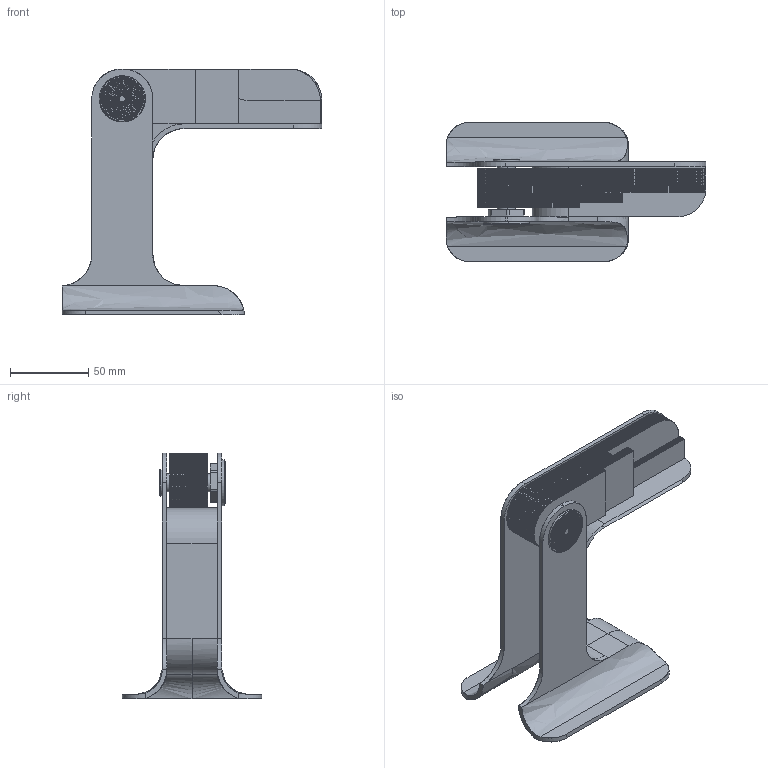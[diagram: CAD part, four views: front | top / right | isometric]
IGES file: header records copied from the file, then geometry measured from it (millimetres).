
Global section: file name: /Users/carolinacolombo/Desktop/sito/Pezzo di studio/3D_Artemide_Pezzo di studio/Timor.igs; native system: Rhinoceros ( Dec  3 2024 ); preprocessor: Trout Lake IGES 012 Dec  3 2024; date: 260324.171836; units: millimetre
Bounding box: 166 x 89 x 157 mm (x, y, z)
Surface area: 319810.4 mm2 (no closed solid volume)
Topology: 0 solids, 0 shells, 485 faces, 3047 edges, 3047 vertices
Faces by surface type: bspline 485
